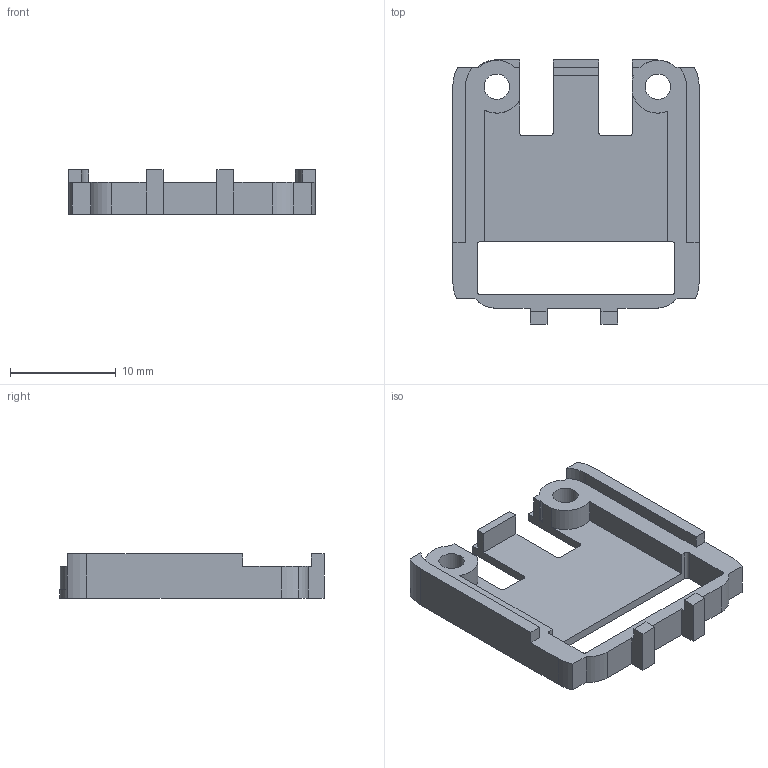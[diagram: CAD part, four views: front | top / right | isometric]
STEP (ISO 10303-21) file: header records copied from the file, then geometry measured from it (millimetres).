
FILE_DESCRIPTION(/* description */ (''),/* implementation_level */ '2;1');
FILE_NAME(/* name */ 'adafruit5807-base.step',/* time_stamp */ '2026-09-18T15:21:00-07:00',/* author */ (''),/* organization */ (''),/* preprocessor_version */ 'ST-DEVELOPER v20.2',/* originating_system */ 'Autodesk Translation Framework v15.15.0.0',/* authorisation */ '');
FILE_SCHEMA (('AUTOMOTIVE_DESIGN { 1 0 10303 214 3 1 1 }'));
Length unit declared in the file: centimetre
Products named in the file (1): 05 Adafruit5807 printed base - 3mm seat
Bounding box: 23.32 x 25 x 4.2 mm (x, y, z)
Volume: 755.5 mm3; surface area: 1433.5 mm2
Topology: 1 solids, 1 shells, 78 faces, 231 edges, 154 vertices
Faces by surface type: plane 53, cylinder 25
Full cylindrical faces by diameter (mm): 2.4 x2
Entity records: 2658 total; most frequent: CARTESIAN_POINT 464, ORIENTED_EDGE 462, DIRECTION 440, EDGE_CURVE 231, LINE 180, VECTOR 180, VERTEX_POINT 154, AXIS2_PLACEMENT_3D 130
